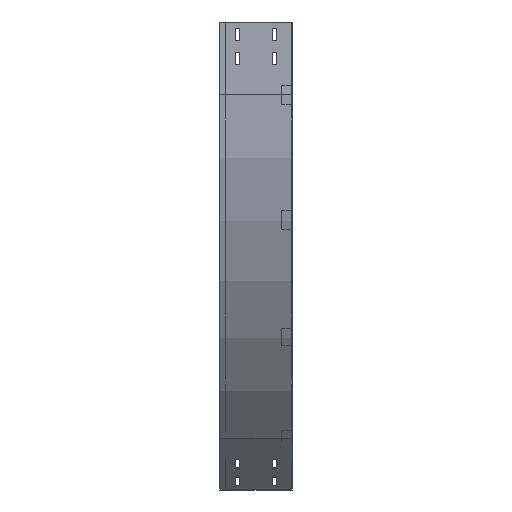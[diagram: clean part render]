
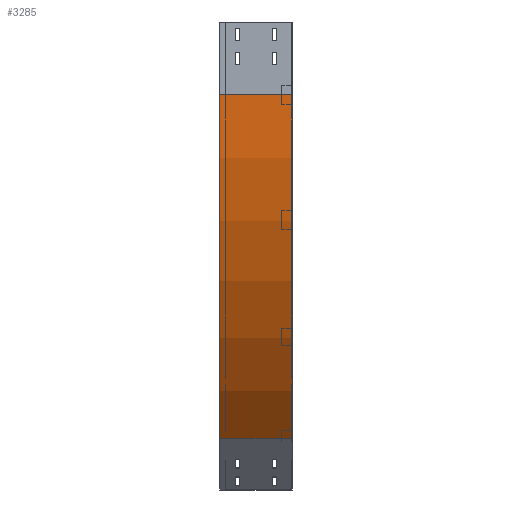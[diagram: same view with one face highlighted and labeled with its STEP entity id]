
A CAD part, left-side view. The second image highlights one B-rep face of the part: STEP entity #3285.
In plain terms, the highlighted cylindrical face has radius 1000 mm (diameter 2000 mm), a partial arc.
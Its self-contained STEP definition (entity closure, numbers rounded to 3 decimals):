
#160 = VERTEX_POINT ( 'NONE', #1406 ) ;
#167 = CARTESIAN_POINT ( 'NONE',  ( 1000., 150., -150. ) ) ;
#251 = LINE ( 'NONE', #2335, #3120 ) ;
#404 = EDGE_CURVE ( 'NONE', #448, #160, #2937, .T. ) ;
#408 = FACE_OUTER_BOUND ( 'NONE', #3087, .T. ) ;
#418 = DIRECTION ( 'NONE',  ( -1., 0., 0. ) ) ;
#437 = DIRECTION ( 'NONE',  ( 0., -1., 0. ) ) ;
#448 = VERTEX_POINT ( 'NONE', #2317 ) ;
#479 = CARTESIAN_POINT ( 'NONE',  ( 292.893, 0., -857.107 ) ) ;
#834 = VERTEX_POINT ( 'NONE', #2516 ) ;
#1219 = VERTEX_POINT ( 'NONE', #3688 ) ;
#1290 = DIRECTION ( 'NONE',  ( -1., 0., 0. ) ) ;
#1292 = EDGE_CURVE ( 'NONE', #448, #834, #251, .T. ) ;
#1328 = CARTESIAN_POINT ( 'NONE',  ( 1000., 0., -150. ) ) ;
#1350 = ORIENTED_EDGE ( 'NONE', *, *, #1292, .F. ) ;
#1406 = CARTESIAN_POINT ( 'NONE',  ( 292.893, 150., -857.107 ) ) ;
#1605 = DIRECTION ( 'NONE',  ( 0., -1., 0. ) ) ;
#1850 = CIRCLE ( 'NONE', #2372, 1000. ) ;
#1965 = ORIENTED_EDGE ( 'NONE', *, *, #3229, .F. ) ;
#2090 = ORIENTED_EDGE ( 'NONE', *, *, #404, .T. ) ;
#2317 = CARTESIAN_POINT ( 'NONE',  ( 0., 150., -150. ) ) ;
#2335 = CARTESIAN_POINT ( 'NONE',  ( 0., 0., -150. ) ) ;
#2372 = AXIS2_PLACEMENT_3D ( 'NONE', #1328, #3092, #1290 ) ;
#2437 = ORIENTED_EDGE ( 'NONE', *, *, #2675, .T. ) ;
#2516 = CARTESIAN_POINT ( 'NONE',  ( 0., 0., -150. ) ) ;
#2552 = CYLINDRICAL_SURFACE ( 'NONE', #3635, 1000. ) ;
#2598 = DIRECTION ( 'NONE',  ( 0., -1., 0. ) ) ;
#2675 = EDGE_CURVE ( 'NONE', #160, #1219, #3805, .T. ) ;
#2801 = DIRECTION ( 'NONE',  ( 0., 0., -1. ) ) ;
#2829 = DIRECTION ( 'NONE',  ( 0., -1., 0. ) ) ;
#2918 = VECTOR ( 'NONE', #2829, 1000. ) ;
#2937 = CIRCLE ( 'NONE', #3798, 1000. ) ;
#3087 = EDGE_LOOP ( 'NONE', ( #1965, #1350, #2090, #2437 ) ) ;
#3092 = DIRECTION ( 'NONE',  ( 0., -1., 0. ) ) ;
#3120 = VECTOR ( 'NONE', #2598, 1000. ) ;
#3229 = EDGE_CURVE ( 'NONE', #834, #1219, #1850, .T. ) ;
#3285 = ADVANCED_FACE ( 'NONE', ( #408 ), #2552, .T. ) ;
#3439 = CARTESIAN_POINT ( 'NONE',  ( 1000., 0., -150. ) ) ;
#3635 = AXIS2_PLACEMENT_3D ( 'NONE', #3439, #1605, #2801 ) ;
#3688 = CARTESIAN_POINT ( 'NONE',  ( 292.893, 0., -857.107 ) ) ;
#3798 = AXIS2_PLACEMENT_3D ( 'NONE', #167, #437, #418 ) ;
#3805 = LINE ( 'NONE', #479, #2918 ) ;
